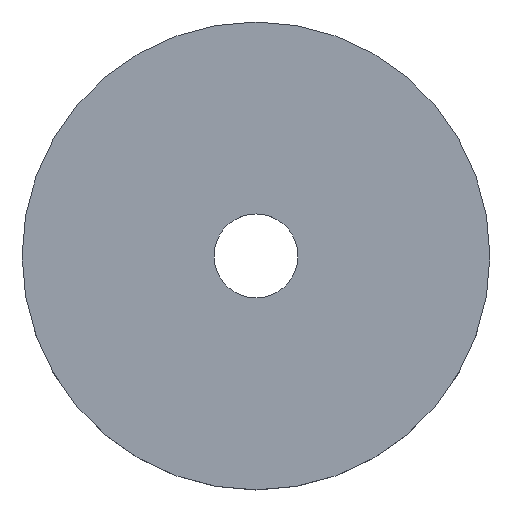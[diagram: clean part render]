
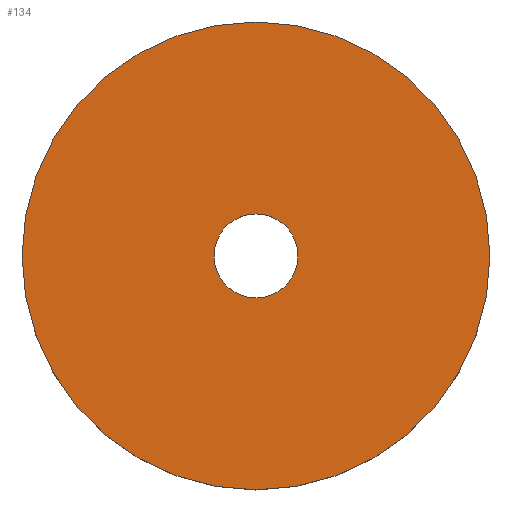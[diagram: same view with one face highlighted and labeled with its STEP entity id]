
A CAD part, top view. The second image highlights one B-rep face of the part: STEP entity #134.
In plain terms, the highlighted planar face has unit normal (0, 0, 1).
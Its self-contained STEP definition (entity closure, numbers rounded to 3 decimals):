
#3 = ORIENTED_EDGE ( 'NONE', *, *, #132, .T. ) ;
#6 = CARTESIAN_POINT ( 'NONE',  ( 0., 0., 0. ) ) ;
#12 = DIRECTION ( 'NONE',  ( -1., 0., 0. ) ) ;
#16 = ORIENTED_EDGE ( 'NONE', *, *, #97, .F. ) ;
#20 = CIRCLE ( 'NONE', #131, 9.75 ) ;
#33 = VERTEX_POINT ( 'NONE', #55 ) ;
#55 = CARTESIAN_POINT ( 'NONE',  ( 1.75, 0., 0. ) ) ;
#56 = VERTEX_POINT ( 'NONE', #121 ) ;
#60 = CARTESIAN_POINT ( 'NONE',  ( 0., 1.75, 0. ) ) ;
#63 = DIRECTION ( 'NONE',  ( 1., 0., 0. ) ) ;
#68 = DIRECTION ( 'NONE',  ( 1., 0., 0. ) ) ;
#72 = AXIS2_PLACEMENT_3D ( 'NONE', #60, #112, #12 ) ;
#74 = EDGE_LOOP ( 'NONE', ( #16 ) ) ;
#81 = PLANE ( 'NONE',  #72 ) ;
#82 = CIRCLE ( 'NONE', #88, 1.75 ) ;
#88 = AXIS2_PLACEMENT_3D ( 'NONE', #127, #108, #63 ) ;
#93 = DIRECTION ( 'NONE',  ( 0., 0., 1. ) ) ;
#97 = EDGE_CURVE ( 'NONE', #33, #33, #82, .T. ) ;
#104 = EDGE_LOOP ( 'NONE', ( #3 ) ) ;
#108 = DIRECTION ( 'NONE',  ( 0., 0., 1. ) ) ;
#110 = FACE_BOUND ( 'NONE', #74, .T. ) ;
#112 = DIRECTION ( 'NONE',  ( 0., 0., -1. ) ) ;
#121 = CARTESIAN_POINT ( 'NONE',  ( 9.75, 0., 0. ) ) ;
#127 = CARTESIAN_POINT ( 'NONE',  ( 0., 0., 0. ) ) ;
#130 = FACE_OUTER_BOUND ( 'NONE', #104, .T. ) ;
#131 = AXIS2_PLACEMENT_3D ( 'NONE', #6, #93, #68 ) ;
#132 = EDGE_CURVE ( 'NONE', #56, #56, #20, .T. ) ;
#134 = ADVANCED_FACE ( 'NONE', ( #110, #130 ), #81, .F. ) ;
